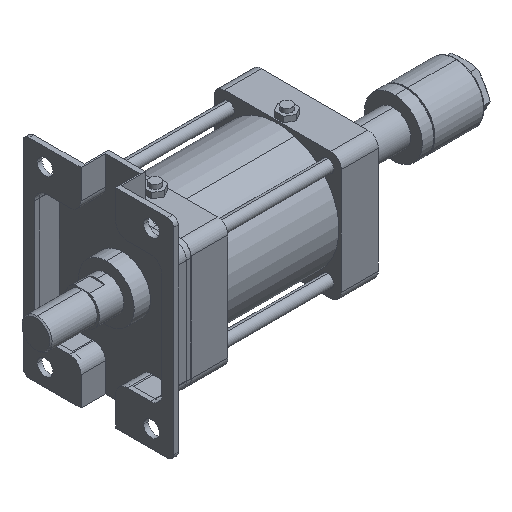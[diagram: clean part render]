
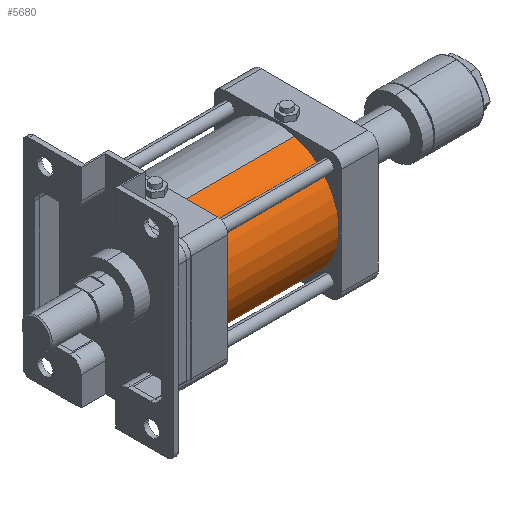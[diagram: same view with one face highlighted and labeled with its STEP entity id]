
A CAD part, isometric view. The second image highlights one B-rep face of the part: STEP entity #5680.
In plain terms, the highlighted cylindrical face has radius 53 mm (diameter 106 mm), a partial arc.
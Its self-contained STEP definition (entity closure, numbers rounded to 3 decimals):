
#1081 = VERTEX_POINT ( 'NONE', #7931 ) ;
#1475 = ORIENTED_EDGE ( 'NONE', *, *, #7806, .F. ) ;
#1516 = DIRECTION ( 'NONE',  ( 0., 0., -1. ) ) ;
#1695 = AXIS2_PLACEMENT_3D ( 'NONE', #8040, #10505, #5375 ) ;
#2054 = CARTESIAN_POINT ( 'NONE',  ( -49., 0., -53. ) ) ;
#2221 = ORIENTED_EDGE ( 'NONE', *, *, #9371, .T. ) ;
#2505 = CARTESIAN_POINT ( 'NONE',  ( 62.388, 0., 53. ) ) ;
#2737 = AXIS2_PLACEMENT_3D ( 'NONE', #9345, #4266, #10876 ) ;
#2998 = DIRECTION ( 'NONE',  ( 1., 0., 0. ) ) ;
#3180 = VERTEX_POINT ( 'NONE', #2054 ) ;
#3343 = ORIENTED_EDGE ( 'NONE', *, *, #6808, .F. ) ;
#3435 = DIRECTION ( 'NONE',  ( 1., 0., 0. ) ) ;
#3561 = LINE ( 'NONE', #10136, #5440 ) ;
#4100 = ORIENTED_EDGE ( 'NONE', *, *, #6740, .T. ) ;
#4266 = DIRECTION ( 'NONE',  ( 1., 0., 0. ) ) ;
#4311 = CIRCLE ( 'NONE', #2737, 53. ) ;
#4511 = CARTESIAN_POINT ( 'NONE',  ( -49., 0., 0. ) ) ;
#5375 = DIRECTION ( 'NONE',  ( 0., 0., -1. ) ) ;
#5423 = CIRCLE ( 'NONE', #9783, 53. ) ;
#5440 = VECTOR ( 'NONE', #2998, 1000. ) ;
#5623 = DIRECTION ( 'NONE',  ( 1., 0., 0. ) ) ;
#5680 = ADVANCED_FACE ( 'NONE', ( #8996 ), #11072, .T. ) ;
#5743 = VERTEX_POINT ( 'NONE', #9008 ) ;
#6740 = EDGE_CURVE ( 'NONE', #10815, #3180, #5423, .T. ) ;
#6808 = EDGE_CURVE ( 'NONE', #10815, #1081, #7335, .T. ) ;
#7185 = EDGE_LOOP ( 'NONE', ( #3343, #4100, #2221, #1475 ) ) ;
#7335 = LINE ( 'NONE', #2505, #8529 ) ;
#7806 = EDGE_CURVE ( 'NONE', #1081, #5743, #4311, .T. ) ;
#7931 = CARTESIAN_POINT ( 'NONE',  ( 49., 0., 53. ) ) ;
#8040 = CARTESIAN_POINT ( 'NONE',  ( 62.388, 0., 0. ) ) ;
#8529 = VECTOR ( 'NONE', #3435, 1000. ) ;
#8996 = FACE_OUTER_BOUND ( 'NONE', #7185, .T. ) ;
#9008 = CARTESIAN_POINT ( 'NONE',  ( 49., 0., -53. ) ) ;
#9345 = CARTESIAN_POINT ( 'NONE',  ( 49., 0., 0. ) ) ;
#9371 = EDGE_CURVE ( 'NONE', #3180, #5743, #3561, .T. ) ;
#9783 = AXIS2_PLACEMENT_3D ( 'NONE', #4511, #5623, #1516 ) ;
#10086 = CARTESIAN_POINT ( 'NONE',  ( -49., 0., 53. ) ) ;
#10136 = CARTESIAN_POINT ( 'NONE',  ( 62.388, 0., -53. ) ) ;
#10505 = DIRECTION ( 'NONE',  ( 1., 0., 0. ) ) ;
#10815 = VERTEX_POINT ( 'NONE', #10086 ) ;
#10876 = DIRECTION ( 'NONE',  ( 0., 0., -1. ) ) ;
#11072 = CYLINDRICAL_SURFACE ( 'NONE', #1695, 53. ) ;
